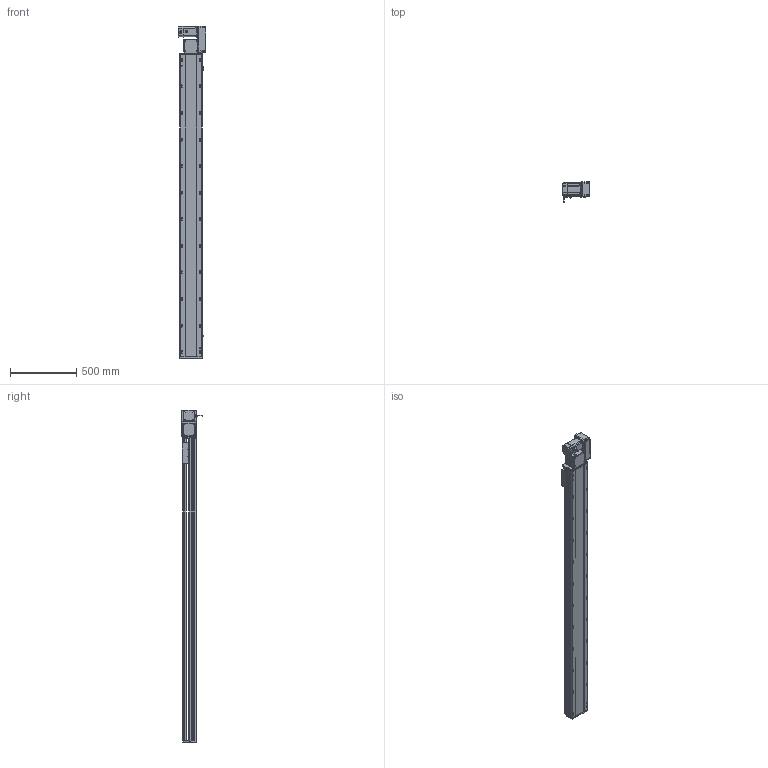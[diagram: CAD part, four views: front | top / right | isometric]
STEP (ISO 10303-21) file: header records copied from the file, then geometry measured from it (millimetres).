
FILE_DESCRIPTION (( 'STEP AP214' ), '1' );
FILE_NAME ('RTB17S-XX-2000-R-M75-C4.STEP', '2025-12-12T01:41:11', ( '' ), ( '' ), 'SwSTEP 2.0', 'SolidWorks 2018', '' );
FILE_SCHEMA (( 'AUTOMOTIVE_DESIGN' ));
Length unit declared in the file: millimetre
Products named in the file (15): EE672^RTB17S-XX-XX-R-M75-C4; RTB17S-L-004-賑釱^RTB17S-賑釱_RTB17S-XX-XX-R-M75-C4; RTB17S-L-014-T20-P75--々湍釱^RTB17S-R-々湍釱蚾饜-750W_RTB17S-XX-XX-R-M75-C4; RTB17S-L-001-耜醱啣^RTB17S-XX-XX-R-M75-C4; RTB22S-GY-018P^RTB17S-R-々湍釱蚾饜-750W_RTB17S-XX-XX-R-M75-C4; RTB17S-R-々湍釱蚾饜-750W^RTB17S-XX-XX-R-M75-C4; RTB17S-XX-2000-R-M75-C4; RTB22S-GY-017P^RTB17S-R-々湍釱蚾饜-750W_RTB17S-XX-XX-R-M75-C4; RTB22S-GY-005P^RTB17S-R-々湍釱蚾饜-750W_RTB17S-XX-XX-R-M75-C4; 750W萇儂^RTB17S-XX-XX-R-M75-C4; RTH13-BL-012覜茼え俋离^RTB17S-賑釱_RTB17S-XX-XX-R-M75-C4; RTB17-R-011菁釱^RTB17S-XX-XX-R-M75-C4; RTB17S-L-007奻裔^RTB17S-XX-XX-R-M75-C4; RTB22S-GY-008-M75--萇儂啣^RTB17S-R-々湍釱蚾饜-750W_RTB17S-XX-XX-R-M75-C4; RTB17S-賑釱^RTB17S-XX-XX-R-M75-C4
Assembly tree (17 placements, depth 3):
  RTB17S-XX-2000-R-M75-C4
    RTB17-R-011菁釱^RTB17S-XX-XX-R-M75-C4
    EE672^RTB17S-XX-XX-R-M75-C4  x3
    RTB17S-L-001-耜醱啣^RTB17S-XX-XX-R-M75-C4
    RTB17S-賑釱^RTB17S-XX-XX-R-M75-C4
      RTB17S-L-004-賑釱^RTB17S-賑釱_RTB17S-XX-XX-R-M75-C4
      RTH13-BL-012覜茼え俋离^RTB17S-賑釱_RTB17S-XX-XX-R-M75-C4
    RTB17S-L-007奻裔^RTB17S-XX-XX-R-M75-C4
    750W萇儂^RTB17S-XX-XX-R-M75-C4
    RTB17S-R-々湍釱蚾饜-750W^RTB17S-XX-XX-R-M75-C4
      RTB17S-L-014-T20-P75--々湍釱^RTB17S-R-々湍釱蚾饜-750W_RTB17S-XX-XX-R-M75-C4
      RTB22S-GY-005P^RTB17S-R-々湍釱蚾饜-750W_RTB17S-XX-XX-R-M75-C4
      RTB22S-GY-017P^RTB17S-R-々湍釱蚾饜-750W_RTB17S-XX-XX-R-M75-C4  x2
      RTB22S-GY-008-M75--萇儂啣^RTB17S-R-々湍釱蚾饜-750W_RTB17S-XX-XX-R-M75-C4
      RTB22S-GY-018P^RTB17S-R-々湍釱蚾饜-750W_RTB17S-XX-XX-R-M75-C4
Bounding box: 207.4 x 152.7 x 2499 mm (x, y, z)
Volume: 18454919 mm3; surface area: 3298349 mm2
Topology: 17 solids, 17 shells, 2169 faces, 6052 edges, 3914 vertices
Faces by surface type: plane 980, cylinder 773, bspline 294, cone 110, sphere 8, torus 4
Entity records: 61942 total; most frequent: CARTESIAN_POINT 18316, ORIENTED_EDGE 8948, DIRECTION 8312, EDGE_CURVE 4474, AXIS2_PLACEMENT_3D 2934, VERTEX_POINT 2918, LINE 2444, VECTOR 2444
